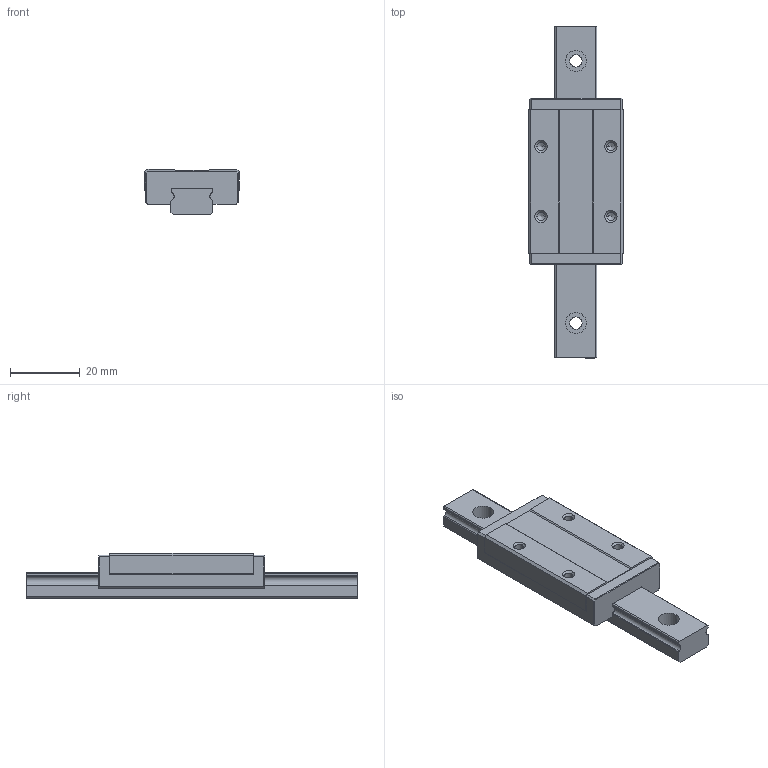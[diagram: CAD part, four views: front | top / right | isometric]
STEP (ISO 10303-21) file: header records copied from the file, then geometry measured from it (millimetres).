
FILE_DESCRIPTION( ( '' ), '1' );
FILE_NAME( 'V:\MSC\MODEL File\MAC catalog drawing\STEP\MSC12LM.stp', ' ', ( '' ), ( '' ), 'ACIS Interop R16', 'Kubotek KeyCreator V6.3.0 (0248)', ' ' );
FILE_SCHEMA( ( 'CONFIG_CONTROL_DESIGN' ) );
Length unit declared in the file: millimetre
Products named in the file (2): 1; 2
Bounding box: 27 x 95 x 13 mm (x, y, z)
Volume: 17566.6 mm3; surface area: 8799 mm2
Topology: 2 solids, 2 shells, 116 faces, 305 edges, 193 vertices
Faces by surface type: plane 58, cylinder 42, cone 16
Entity records: 3629 total; most frequent: DIRECTION 631, CARTESIAN_POINT 617, ORIENTED_EDGE 594, EDGE_CURVE 297, AXIS2_PLACEMENT_3D 219, VERTEX_POINT 193, LINE 193, VECTOR 193
